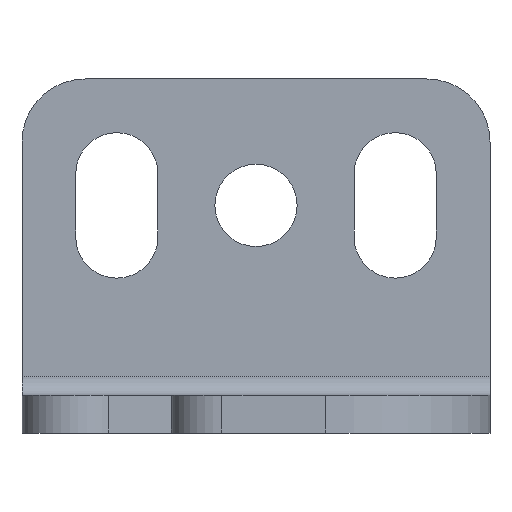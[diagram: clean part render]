
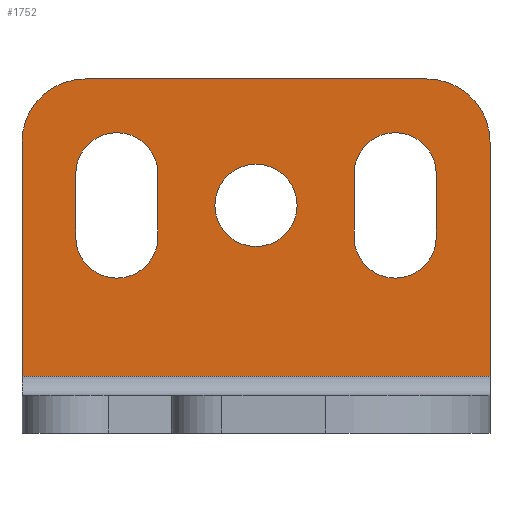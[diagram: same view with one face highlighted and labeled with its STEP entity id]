
A CAD part, front view. The second image highlights one B-rep face of the part: STEP entity #1752.
In plain terms, the highlighted planar face has unit normal (0, -1, 0).
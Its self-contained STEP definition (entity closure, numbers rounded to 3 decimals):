
#602=DIRECTION('',(0.,0.,1.));
#603=VECTOR('',#602,18.5);
#604=CARTESIAN_POINT('',(18.5,27.,4.5));
#605=LINE('',#604,#603);
#679=CARTESIAN_POINT('',(0.,27.,18.));
#680=DIRECTION('',(0.,-1.,0.));
#681=DIRECTION('',(1.,0.,0.));
#682=AXIS2_PLACEMENT_3D('',#679,#680,#681);
#687=CARTESIAN_POINT('',(0.,27.,18.));
#688=DIRECTION('',(0.,-1.,0.));
#689=DIRECTION('',(-1.,0.,0.));
#690=AXIS2_PLACEMENT_3D('',#687,#688,#689);
#695=DIRECTION('',(0.,0.,-1.));
#696=VECTOR('',#695,5.);
#697=CARTESIAN_POINT('',(7.75,27.,20.5));
#698=LINE('',#697,#696);
#702=CARTESIAN_POINT('',(11.,27.,15.5));
#703=DIRECTION('',(0.,-1.,0.));
#704=DIRECTION('',(-1.,0.,0.));
#705=AXIS2_PLACEMENT_3D('',#702,#703,#704);
#710=DIRECTION('',(0.,0.,1.));
#711=VECTOR('',#710,5.);
#712=CARTESIAN_POINT('',(14.25,27.,15.5));
#713=LINE('',#712,#711);
#717=CARTESIAN_POINT('',(11.,27.,20.5));
#718=DIRECTION('',(0.,-1.,0.));
#719=DIRECTION('',(1.,0.,0.));
#720=AXIS2_PLACEMENT_3D('',#717,#718,#719);
#725=CARTESIAN_POINT('',(-11.,27.,20.5));
#726=DIRECTION('',(0.,-1.,0.));
#727=DIRECTION('',(1.,0.,0.));
#728=AXIS2_PLACEMENT_3D('',#725,#726,#727);
#733=DIRECTION('',(0.,0.,-1.));
#734=VECTOR('',#733,5.);
#735=CARTESIAN_POINT('',(-14.25,27.,20.5));
#736=LINE('',#735,#734);
#740=CARTESIAN_POINT('',(-11.,27.,15.5));
#741=DIRECTION('',(0.,-1.,0.));
#742=DIRECTION('',(-1.,0.,0.));
#743=AXIS2_PLACEMENT_3D('',#740,#741,#742);
#748=DIRECTION('',(0.,0.,1.));
#749=VECTOR('',#748,5.);
#750=CARTESIAN_POINT('',(-7.75,27.,15.5));
#751=LINE('',#750,#749);
#755=DIRECTION('',(1.,0.,0.));
#756=VECTOR('',#755,37.);
#757=CARTESIAN_POINT('',(-18.5,27.,4.5));
#758=LINE('',#757,#756);
#762=DIRECTION('',(0.,0.,1.));
#763=VECTOR('',#762,18.5);
#764=CARTESIAN_POINT('',(-18.5,27.,4.5));
#765=LINE('',#764,#763);
#769=CARTESIAN_POINT('',(-13.5,27.,23.));
#770=DIRECTION('',(0.,-1.,0.));
#771=DIRECTION('',(0.,0.,1.));
#772=AXIS2_PLACEMENT_3D('',#769,#770,#771);
#777=CARTESIAN_POINT('',(13.5,27.,23.));
#778=DIRECTION('',(0.,-1.,0.));
#779=DIRECTION('',(1.,0.,0.));
#780=AXIS2_PLACEMENT_3D('',#777,#778,#779);
#989=DIRECTION('',(1.,0.,0.));
#990=VECTOR('',#989,27.);
#991=CARTESIAN_POINT('',(-13.5,27.,28.));
#992=LINE('',#991,#990);
#1120=CARTESIAN_POINT('',(3.25,27.,18.));
#1121=CARTESIAN_POINT('',(-3.25,27.,18.));
#1122=VERTEX_POINT('',#1120);
#1123=VERTEX_POINT('',#1121);
#1124=CARTESIAN_POINT('',(7.75,27.,20.5));
#1125=CARTESIAN_POINT('',(7.75,27.,15.5));
#1126=VERTEX_POINT('',#1124);
#1127=VERTEX_POINT('',#1125);
#1128=CARTESIAN_POINT('',(14.25,27.,15.5));
#1129=VERTEX_POINT('',#1128);
#1130=CARTESIAN_POINT('',(14.25,27.,20.5));
#1131=VERTEX_POINT('',#1130);
#1132=CARTESIAN_POINT('',(-7.75,27.,20.5));
#1133=CARTESIAN_POINT('',(-14.25,27.,20.5));
#1134=VERTEX_POINT('',#1132);
#1135=VERTEX_POINT('',#1133);
#1136=CARTESIAN_POINT('',(-14.25,27.,15.5));
#1137=VERTEX_POINT('',#1136);
#1138=CARTESIAN_POINT('',(-7.75,27.,15.5));
#1139=VERTEX_POINT('',#1138);
#1140=CARTESIAN_POINT('',(-13.5,27.,28.));
#1141=CARTESIAN_POINT('',(-18.5,27.,23.));
#1142=VERTEX_POINT('',#1140);
#1143=VERTEX_POINT('',#1141);
#1152=CARTESIAN_POINT('',(18.5,27.,23.));
#1153=VERTEX_POINT('',#1152);
#1154=CARTESIAN_POINT('',(13.5,27.,28.));
#1155=VERTEX_POINT('',#1154);
#1160=CARTESIAN_POINT('',(-18.5,27.,4.5));
#1161=CARTESIAN_POINT('',(18.5,27.,4.5));
#1162=VERTEX_POINT('',#1160);
#1163=VERTEX_POINT('',#1161);
#1710=CARTESIAN_POINT('',(-18.5,27.,3.));
#1711=DIRECTION('',(0.,-1.,0.));
#1712=DIRECTION('',(1.,0.,0.));
#1713=AXIS2_PLACEMENT_3D('',#1710,#1711,#1712);
#1714=PLANE('',#1713);
#1715=ORIENTED_EDGE('',*,*,#1532,.F.);
#1716=ORIENTED_EDGE('',*,*,#1550,.T.);
#1718=ORIENTED_EDGE('',*,*,#1717,.F.);
#1720=ORIENTED_EDGE('',*,*,#1719,.T.);
#1722=ORIENTED_EDGE('',*,*,#1721,.F.);
#1723=ORIENTED_EDGE('',*,*,#1585,.F.);
#1724=EDGE_LOOP('',(#1715,#1716,#1718,#1720,#1722,#1723));
#1725=FACE_OUTER_BOUND('',#1724,.F.);
#1727=ORIENTED_EDGE('',*,*,#1726,.T.);
#1729=ORIENTED_EDGE('',*,*,#1728,.T.);
#1731=ORIENTED_EDGE('',*,*,#1730,.T.);
#1733=ORIENTED_EDGE('',*,*,#1732,.T.);
#1734=EDGE_LOOP('',(#1727,#1729,#1731,#1733));
#1735=FACE_BOUND('',#1734,.F.);
#1737=ORIENTED_EDGE('',*,*,#1736,.T.);
#1739=ORIENTED_EDGE('',*,*,#1738,.T.);
#1741=ORIENTED_EDGE('',*,*,#1740,.T.);
#1743=ORIENTED_EDGE('',*,*,#1742,.T.);
#1744=EDGE_LOOP('',(#1737,#1739,#1741,#1743));
#1745=FACE_BOUND('',#1744,.F.);
#1747=ORIENTED_EDGE('',*,*,#1746,.T.);
#1749=ORIENTED_EDGE('',*,*,#1748,.T.);
#1750=EDGE_LOOP('',(#1747,#1749));
#1751=FACE_BOUND('',#1750,.F.);
#683=CIRCLE('',#682,3.25);
#691=CIRCLE('',#690,3.25);
#706=CIRCLE('',#705,3.25);
#721=CIRCLE('',#720,3.25);
#729=CIRCLE('',#728,3.25);
#744=CIRCLE('',#743,3.25);
#773=CIRCLE('',#772,5.);
#781=CIRCLE('',#780,5.);
#1532=EDGE_CURVE('',#1162,#1163,#758,.T.);
#1550=EDGE_CURVE('',#1162,#1143,#765,.T.);
#1585=EDGE_CURVE('',#1163,#1153,#605,.T.);
#1717=EDGE_CURVE('',#1142,#1143,#773,.T.);
#1719=EDGE_CURVE('',#1142,#1155,#992,.T.);
#1721=EDGE_CURVE('',#1153,#1155,#781,.T.);
#1726=EDGE_CURVE('',#1126,#1127,#698,.T.);
#1728=EDGE_CURVE('',#1127,#1129,#706,.T.);
#1730=EDGE_CURVE('',#1129,#1131,#713,.T.);
#1732=EDGE_CURVE('',#1131,#1126,#721,.T.);
#1736=EDGE_CURVE('',#1134,#1135,#729,.T.);
#1738=EDGE_CURVE('',#1135,#1137,#736,.T.);
#1740=EDGE_CURVE('',#1137,#1139,#744,.T.);
#1742=EDGE_CURVE('',#1139,#1134,#751,.T.);
#1746=EDGE_CURVE('',#1122,#1123,#683,.T.);
#1748=EDGE_CURVE('',#1123,#1122,#691,.T.);
#1752=ADVANCED_FACE('',(#1725,#1735,#1745,#1751),#1714,.T.);
